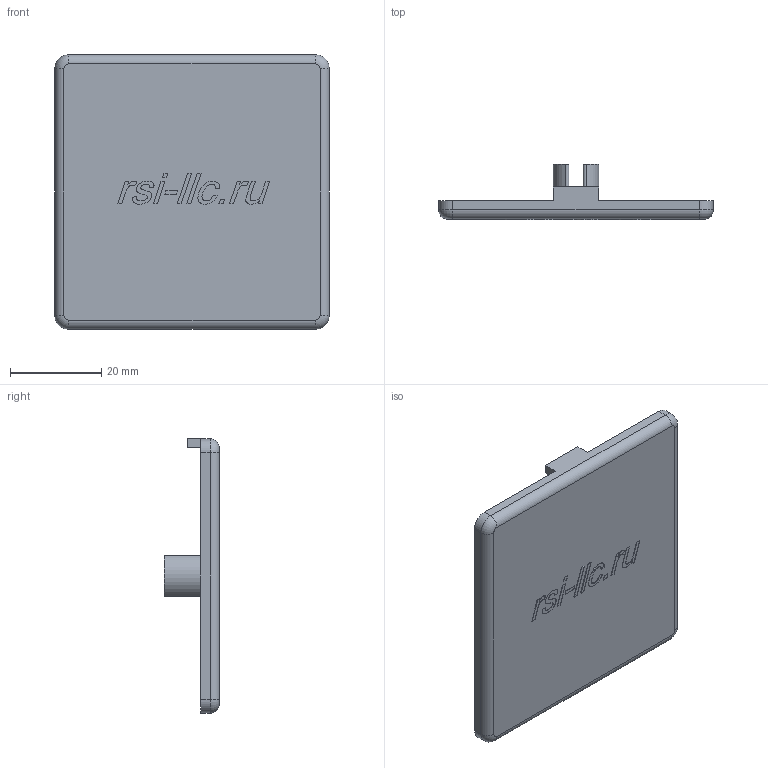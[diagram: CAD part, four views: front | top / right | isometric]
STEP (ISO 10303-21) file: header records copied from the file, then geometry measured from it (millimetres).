
FILE_DESCRIPTION (( 'STEP AP214' ), '1' );
FILE_NAME ('4006.STEP', '2020-10-20T04:51:51', ( '' ), ( '' ), 'SwSTEP 2.0', 'SolidWorks 2018', '' );
FILE_SCHEMA (( 'AUTOMOTIVE_DESIGN' ));
Length unit declared in the file: millimetre
Products named in the file (1): 4006
Bounding box: 60 x 12.1 x 60 mm (x, y, z)
Volume: 8206.3 mm3; surface area: 8847.4 mm2
Topology: 1 solids, 1 shells, 154 faces, 391 edges, 252 vertices
Faces by surface type: plane 78, bspline 32, cylinder 26, torus 18
Entity records: 7415 total; most frequent: CARTESIAN_POINT 2782, ORIENTED_EDGE 782, DIRECTION 653, EDGE_CURVE 391, VERTEX_POINT 252, LINE 247, VECTOR 247, AXIS2_PLACEMENT_3D 203
